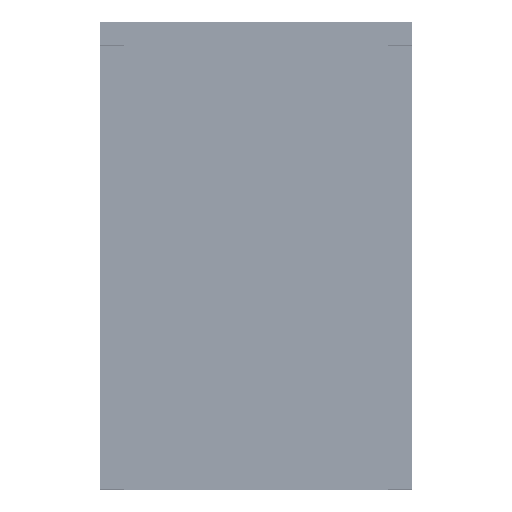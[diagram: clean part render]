
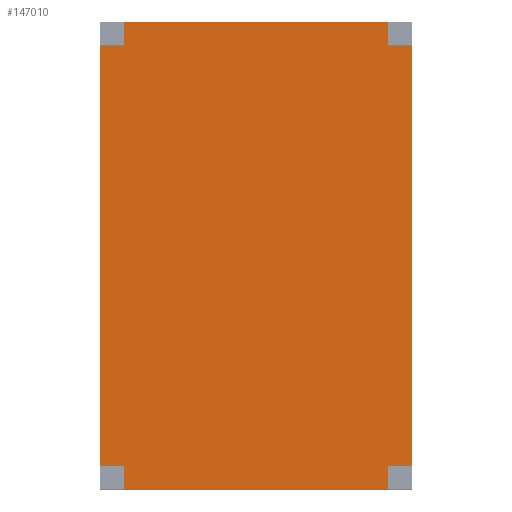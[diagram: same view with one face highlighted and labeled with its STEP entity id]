
A CAD part, top view. The second image highlights one B-rep face of the part: STEP entity #147010.
In plain terms, the highlighted planar face has unit normal (0, 0, 1) as drawn and (0, -1, 0) by its records, which use the part's own axes.
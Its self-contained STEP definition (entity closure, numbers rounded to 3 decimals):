
#14212=FACE_OUTER_BOUND('',#24950,.T.);
#24950=EDGE_LOOP('',(#102753,#102754,#102755,#102756,#102757,#102758,#102759,
#102760,#102761,#102762,#102763,#102764));
#45143=LINE('',#229763,#55470);
#45146=LINE('',#229769,#55473);
#45149=LINE('',#229775,#55476);
#45152=LINE('',#229781,#55479);
#45155=LINE('',#229787,#55482);
#45158=LINE('',#229793,#55485);
#45161=LINE('',#229799,#55488);
#45164=LINE('',#229805,#55491);
#45167=LINE('',#229811,#55494);
#45170=LINE('',#229817,#55497);
#45173=LINE('',#229823,#55500);
#45176=LINE('',#229827,#55503);
#55470=VECTOR('',#182689,10.);
#55473=VECTOR('',#182694,10.);
#55476=VECTOR('',#182699,10.);
#55479=VECTOR('',#182704,10.);
#55482=VECTOR('',#182709,10.);
#55485=VECTOR('',#182714,10.);
#55488=VECTOR('',#182719,10.);
#55491=VECTOR('',#182724,10.);
#55494=VECTOR('',#182729,10.);
#55497=VECTOR('',#182734,10.);
#55500=VECTOR('',#182739,10.);
#55503=VECTOR('',#182744,10.);
#65390=VERTEX_POINT('',#229760);
#65391=VERTEX_POINT('',#229762);
#65393=VERTEX_POINT('',#229768);
#65395=VERTEX_POINT('',#229774);
#65397=VERTEX_POINT('',#229780);
#65399=VERTEX_POINT('',#229786);
#65401=VERTEX_POINT('',#229792);
#65403=VERTEX_POINT('',#229798);
#65405=VERTEX_POINT('',#229804);
#65407=VERTEX_POINT('',#229810);
#65409=VERTEX_POINT('',#229816);
#65411=VERTEX_POINT('',#229822);
#79704=EDGE_CURVE('',#65391,#65390,#45143,.T.);
#79707=EDGE_CURVE('',#65393,#65391,#45146,.T.);
#79710=EDGE_CURVE('',#65395,#65393,#45149,.T.);
#79713=EDGE_CURVE('',#65397,#65395,#45152,.T.);
#79716=EDGE_CURVE('',#65399,#65397,#45155,.T.);
#79719=EDGE_CURVE('',#65401,#65399,#45158,.T.);
#79722=EDGE_CURVE('',#65403,#65401,#45161,.T.);
#79725=EDGE_CURVE('',#65405,#65403,#45164,.T.);
#79728=EDGE_CURVE('',#65407,#65405,#45167,.T.);
#79731=EDGE_CURVE('',#65409,#65407,#45170,.T.);
#79734=EDGE_CURVE('',#65411,#65409,#45173,.T.);
#79737=EDGE_CURVE('',#65390,#65411,#45176,.T.);
#102753=ORIENTED_EDGE('',*,*,#79737,.T.);
#102754=ORIENTED_EDGE('',*,*,#79734,.T.);
#102755=ORIENTED_EDGE('',*,*,#79731,.T.);
#102756=ORIENTED_EDGE('',*,*,#79728,.T.);
#102757=ORIENTED_EDGE('',*,*,#79725,.T.);
#102758=ORIENTED_EDGE('',*,*,#79722,.T.);
#102759=ORIENTED_EDGE('',*,*,#79719,.T.);
#102760=ORIENTED_EDGE('',*,*,#79716,.T.);
#102761=ORIENTED_EDGE('',*,*,#79713,.T.);
#102762=ORIENTED_EDGE('',*,*,#79710,.T.);
#102763=ORIENTED_EDGE('',*,*,#79707,.T.);
#102764=ORIENTED_EDGE('',*,*,#79704,.T.);
#141099=PLANE('',#161620);
#147010=ADVANCED_FACE('',(#14212),#141099,.T.);
#161620=AXIS2_PLACEMENT_3D('',#229828,#182745,#182746);
#182689=DIRECTION('',(1.,0.,0.));
#182694=DIRECTION('',(0.,0.,-1.));
#182699=DIRECTION('',(-1.,0.,0.));
#182704=DIRECTION('',(0.,0.,-1.));
#182709=DIRECTION('',(-1.,0.,0.));
#182714=DIRECTION('',(0.,0.,1.));
#182719=DIRECTION('',(-1.,0.,0.));
#182724=DIRECTION('',(0.,0.,1.));
#182729=DIRECTION('',(1.,0.,0.));
#182734=DIRECTION('',(0.,0.,1.));
#182739=DIRECTION('',(1.,0.,0.));
#182744=DIRECTION('',(0.,0.,-1.));
#182745=DIRECTION('center_axis',(0.,-1.,0.));
#182746=DIRECTION('ref_axis',(0.,0.,-1.));
#229760=CARTESIAN_POINT('',(-270.,-315.,-170.));
#229762=CARTESIAN_POINT('',(-300.,-315.,-170.));
#229763=CARTESIAN_POINT('',(-300.,-315.,-170.));
#229768=CARTESIAN_POINT('',(-300.,-315.,170.));
#229769=CARTESIAN_POINT('',(-300.,-315.,200.));
#229774=CARTESIAN_POINT('',(-270.,-315.,170.));
#229775=CARTESIAN_POINT('',(-270.,-315.,170.));
#229780=CARTESIAN_POINT('',(-270.,-315.,200.));
#229781=CARTESIAN_POINT('',(-270.,-315.,200.));
#229786=CARTESIAN_POINT('',(270.,-315.,200.));
#229787=CARTESIAN_POINT('',(300.,-315.,200.));
#229792=CARTESIAN_POINT('',(270.,-315.,170.));
#229793=CARTESIAN_POINT('',(270.,-315.,170.));
#229798=CARTESIAN_POINT('',(300.,-315.,170.));
#229799=CARTESIAN_POINT('',(300.,-315.,170.));
#229804=CARTESIAN_POINT('',(300.,-315.,-170.));
#229805=CARTESIAN_POINT('',(300.,-315.,-200.));
#229810=CARTESIAN_POINT('',(270.,-315.,-170.));
#229811=CARTESIAN_POINT('',(270.,-315.,-170.));
#229816=CARTESIAN_POINT('',(270.,-315.,-200.));
#229817=CARTESIAN_POINT('',(270.,-315.,-200.));
#229822=CARTESIAN_POINT('',(-270.,-315.,-200.));
#229823=CARTESIAN_POINT('',(-300.,-315.,-200.));
#229827=CARTESIAN_POINT('',(-270.,-315.,-170.));
#229828=CARTESIAN_POINT('Origin',(0.,-315.,0.));
